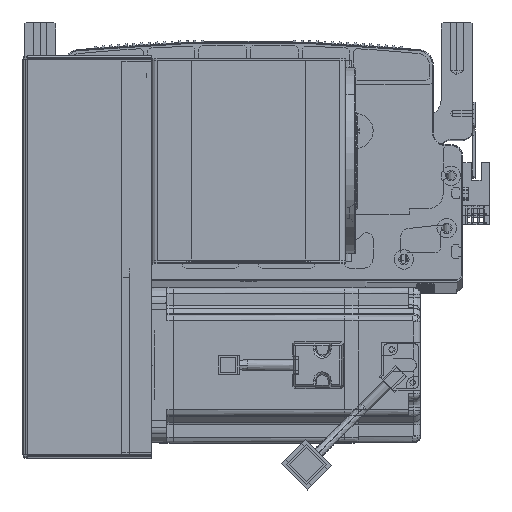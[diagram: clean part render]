
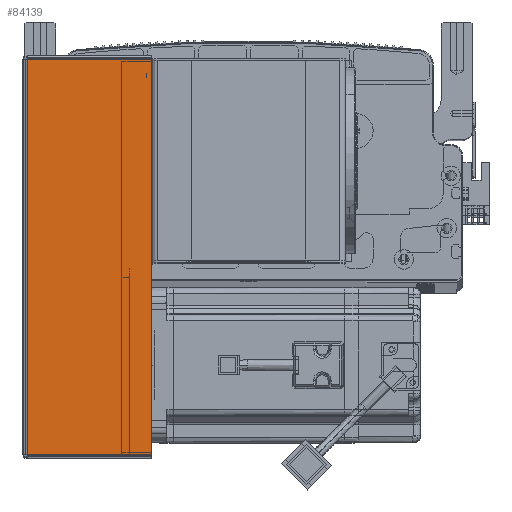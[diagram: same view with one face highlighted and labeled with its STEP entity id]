
A CAD part, top view. The second image highlights one B-rep face of the part: STEP entity #84139.
In plain terms, the highlighted planar face has unit normal (0, 0, 1) as drawn and (0, -1, 0) by its records, which use the part's own axes.
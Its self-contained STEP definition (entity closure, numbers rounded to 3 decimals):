
#1610 = DIRECTION ( 'NONE',  ( 1., 0., 0. ) ) ;
#2522 = VERTEX_POINT ( 'NONE', #81932 ) ;
#3417 = VECTOR ( 'NONE', #27942, 1000. ) ;
#5045 = EDGE_CURVE ( 'NONE', #11048, #2522, #33474, .T. ) ;
#5688 = EDGE_LOOP ( 'NONE', ( #44297, #86748, #69005, #63442 ) ) ;
#11048 = VERTEX_POINT ( 'NONE', #28292 ) ;
#22222 = FACE_OUTER_BOUND ( 'NONE', #5688, .T. ) ;
#26301 = CARTESIAN_POINT ( 'NONE',  ( 0., -1.5, 0. ) ) ;
#26570 = CARTESIAN_POINT ( 'NONE',  ( 0.737, -1.5, 0. ) ) ;
#27301 = CARTESIAN_POINT ( 'NONE',  ( 64.5, -1.5, 0. ) ) ;
#27383 = EDGE_CURVE ( 'NONE', #57487, #55216, #86006, .T. ) ;
#27942 = DIRECTION ( 'NONE',  ( 0., 0., 1. ) ) ;
#28292 = CARTESIAN_POINT ( 'NONE',  ( 64.5, -1.5, -203.293 ) ) ;
#32999 = CARTESIAN_POINT ( 'NONE',  ( 0.737, -1.5, -0.707 ) ) ;
#33474 = LINE ( 'NONE', #27301, #3417 ) ;
#41985 = DIRECTION ( 'NONE',  ( 0., 0., 1. ) ) ;
#44297 = ORIENTED_EDGE ( 'NONE', *, *, #27383, .F. ) ;
#45207 = LINE ( 'NONE', #91950, #83575 ) ;
#46027 = DIRECTION ( 'NONE',  ( 1., 0., 0. ) ) ;
#51039 = CARTESIAN_POINT ( 'NONE',  ( 0.737, -1.5, -203.293 ) ) ;
#55216 = VERTEX_POINT ( 'NONE', #32999 ) ;
#56472 = DIRECTION ( 'NONE',  ( -1., 0., 0. ) ) ;
#57487 = VERTEX_POINT ( 'NONE', #51039 ) ;
#60843 = VECTOR ( 'NONE', #1610, 1000. ) ;
#63442 = ORIENTED_EDGE ( 'NONE', *, *, #70543, .F. ) ;
#65578 = VECTOR ( 'NONE', #41985, 1000. ) ;
#69005 = ORIENTED_EDGE ( 'NONE', *, *, #5045, .T. ) ;
#69206 = EDGE_CURVE ( 'NONE', #57487, #11048, #77622, .T. ) ;
#70543 = EDGE_CURVE ( 'NONE', #55216, #2522, #45207, .T. ) ;
#77622 = LINE ( 'NONE', #79003, #60843 ) ;
#79003 = CARTESIAN_POINT ( 'NONE',  ( 0., -1.5, -203.293 ) ) ;
#79267 = DIRECTION ( 'NONE',  ( 0., 1., 0. ) ) ;
#81510 = AXIS2_PLACEMENT_3D ( 'NONE', #26301, #79267, #56472 ) ;
#81932 = CARTESIAN_POINT ( 'NONE',  ( 64.5, -1.5, -0.707 ) ) ;
#83575 = VECTOR ( 'NONE', #46027, 1000. ) ;
#84139 = ADVANCED_FACE ( 'NONE', ( #22222 ), #87303, .F. ) ;
#86006 = LINE ( 'NONE', #26570, #65578 ) ;
#86748 = ORIENTED_EDGE ( 'NONE', *, *, #69206, .T. ) ;
#87303 = PLANE ( 'NONE',  #81510 ) ;
#91950 = CARTESIAN_POINT ( 'NONE',  ( 0., -1.5, -0.707 ) ) ;
